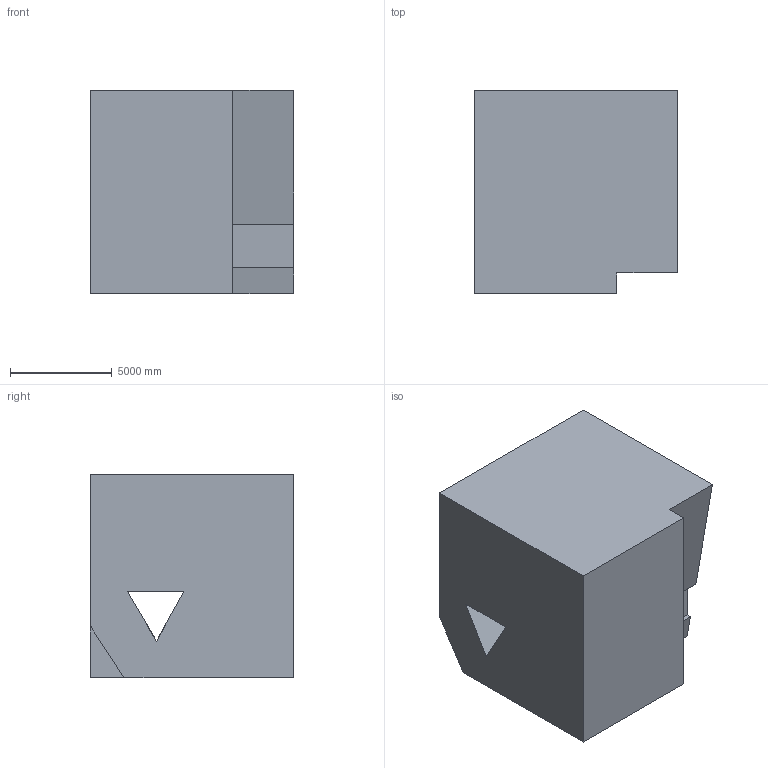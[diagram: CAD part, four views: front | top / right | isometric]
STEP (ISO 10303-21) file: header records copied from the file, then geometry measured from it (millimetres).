
FILE_DESCRIPTION (( 'STEP AP203' ), '1' );
FILE_NAME ('97.STEP', '2022-08-31T11:32:51', ( 'user' ), ( '' ), 'SwSTEP 2.0', 'SolidWorks 2021', '' );
FILE_SCHEMA (( 'CONFIG_CONTROL_DESIGN' ));
Length unit declared in the file: centimetre
Products named in the file (1): 97
Bounding box: 10000 x 10000 x 10000 mm (x, y, z)
Volume: 872213408851.1 mm3; surface area: 699903847 mm2
Topology: 1 solids, 1 shells, 26 faces, 72 edges, 48 vertices
Faces by surface type: plane 22, cylinder 4
Entity records: 907 total; most frequent: CARTESIAN_POINT 165, ORIENTED_EDGE 144, DIRECTION 126, EDGE_CURVE 72, VECTOR 60, LINE 60, VERTEX_POINT 48, AXIS2_PLACEMENT_3D 33
